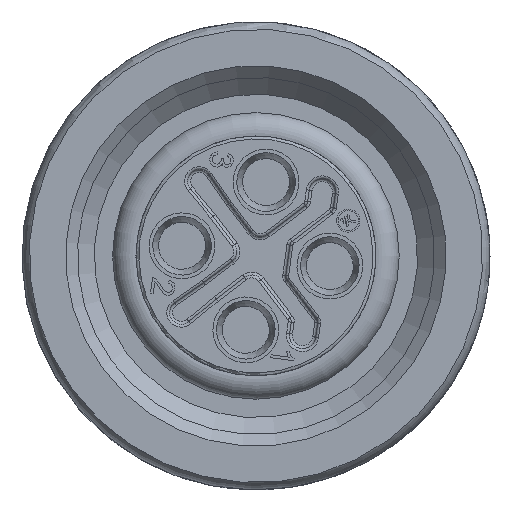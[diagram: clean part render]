
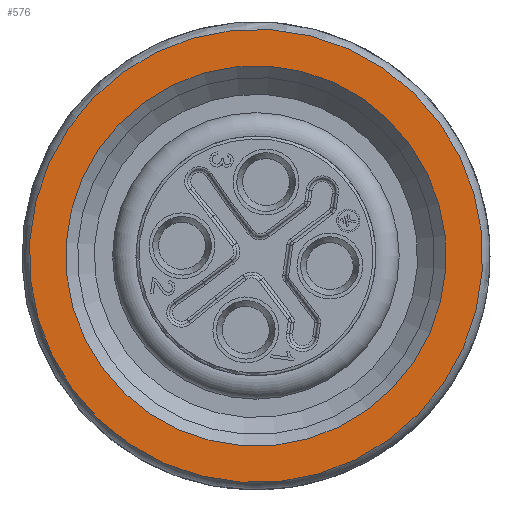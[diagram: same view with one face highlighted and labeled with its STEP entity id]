
A CAD part, left-side view. The second image highlights one B-rep face of the part: STEP entity #576.
In plain terms, the highlighted planar face has unit normal (-1, 0, 0).
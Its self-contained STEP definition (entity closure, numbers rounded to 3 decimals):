
#576 = ADVANCED_FACE( '', ( #1281, #1282 ), #1283, .T. );
#1281 = FACE_OUTER_BOUND( '', #2152, .T. );
#1282 = FACE_BOUND( '', #2153, .T. );
#1283 = PLANE( '', #2154 );
#2152 = EDGE_LOOP( '', ( #3884 ) );
#2153 = EDGE_LOOP( '', ( #3885 ) );
#2154 = AXIS2_PLACEMENT_3D( '', #3886, #3887, #3888 );
#3884 = ORIENTED_EDGE( '', *, *, #5251, .F. );
#3885 = ORIENTED_EDGE( '', *, *, #4950, .T. );
#3886 = CARTESIAN_POINT( '', ( -25., -4.983, 0.425 ) );
#3887 = DIRECTION( '', ( -1., 0., 0. ) );
#3888 = DIRECTION( '', ( 0., 1., 0. ) );
#4950 = EDGE_CURVE( '', #5914, #5914, #5915, .T. );
#5251 = EDGE_CURVE( '', #6321, #6321, #6322, .T. );
#5914 = VERTEX_POINT( '', #7489 );
#5915 = CIRCLE( '', #7490, 6.5 );
#6321 = VERTEX_POINT( '', #8204 );
#6322 = CIRCLE( '', #8205, 7.75 );
#7489 = CARTESIAN_POINT( '', ( -25., -3.74, 0.294 ) );
#7490 = AXIS2_PLACEMENT_3D( '', #8836, #8837, #8838 );
#8204 = CARTESIAN_POINT( '', ( -25., -4.983, 0.425 ) );
#8205 = AXIS2_PLACEMENT_3D( '', #9171, #9172, #9173 );
#8836 = CARTESIAN_POINT( '', ( -25., 2.724, -0.388 ) );
#8837 = DIRECTION( '', ( 1., 0., 0. ) );
#8838 = DIRECTION( '', ( 0., -0.994, 0.105 ) );
#9171 = CARTESIAN_POINT( '', ( -25., 2.724, -0.388 ) );
#9172 = DIRECTION( '', ( 1., 0., 0. ) );
#9173 = DIRECTION( '', ( 0., -0.994, 0.105 ) );
